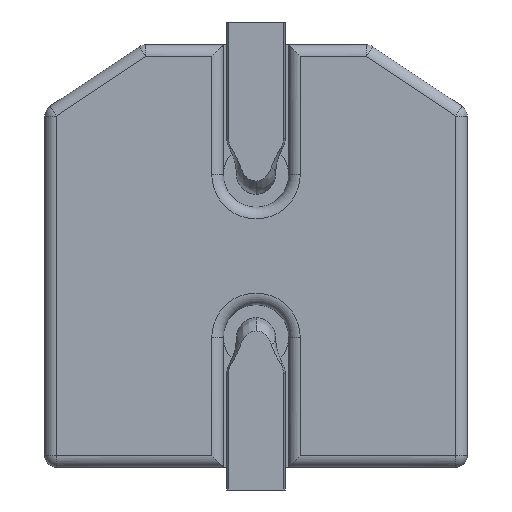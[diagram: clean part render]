
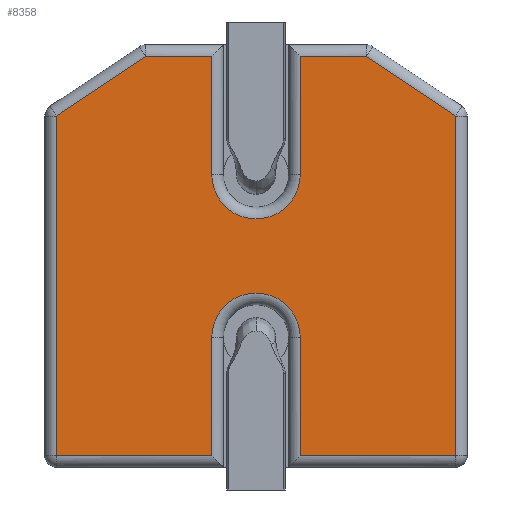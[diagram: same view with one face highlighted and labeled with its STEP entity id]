
A CAD part, left-side view. The second image highlights one B-rep face of the part: STEP entity #8358.
In plain terms, the highlighted planar face has unit normal (-1, 0, 0) as drawn and (0, -1, 0) by its records, which use the part's own axes.
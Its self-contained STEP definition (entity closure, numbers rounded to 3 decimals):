
#6933=DIRECTION('',(-0.832,0.,0.555));
#6934=VECTOR('',#6933,1.652);
#6935=CARTESIAN_POINT('',(3.07,0.,2.154));
#6936=LINE('',#6935,#6934);
#6937=DIRECTION('',(0.,0.,1.));
#6938=VECTOR('',#6937,5.224);
#6939=CARTESIAN_POINT('',(3.07,0.,-3.07));
#6940=LINE('',#6939,#6938);
#6941=DIRECTION('',(1.,0.,0.));
#6942=VECTOR('',#6941,2.39);
#6943=CARTESIAN_POINT('',(0.68,0.,-3.07));
#6944=LINE('',#6943,#6942);
#6945=DIRECTION('',(0.,0.,-1.));
#6946=VECTOR('',#6945,1.82);
#6947=CARTESIAN_POINT('',(0.68,0.,-1.25));
#6948=LINE('',#6947,#6946);
#6949=DIRECTION('',(0.,0.,1.));
#6950=VECTOR('',#6949,1.82);
#6951=CARTESIAN_POINT('',(-0.68,0.,-3.07));
#6952=LINE('',#6951,#6950);
#6953=DIRECTION('',(1.,0.,0.));
#6954=VECTOR('',#6953,2.39);
#6955=CARTESIAN_POINT('',(-3.07,0.,-3.07));
#6956=LINE('',#6955,#6954);
#6957=DIRECTION('',(0.,0.,-1.));
#6958=VECTOR('',#6957,5.224);
#6959=CARTESIAN_POINT('',(-3.07,0.,2.154));
#6960=LINE('',#6959,#6958);
#6961=DIRECTION('',(0.832,0.,0.555));
#6962=VECTOR('',#6961,1.652);
#6963=CARTESIAN_POINT('',(-3.07,0.,2.154));
#6964=LINE('',#6963,#6962);
#6965=DIRECTION('',(-1.,0.,0.));
#6966=VECTOR('',#6965,1.016);
#6967=CARTESIAN_POINT('',(-0.68,0.,3.07));
#6968=LINE('',#6967,#6966);
#6969=DIRECTION('',(0.,0.,1.));
#6970=VECTOR('',#6969,1.82);
#6971=CARTESIAN_POINT('',(-0.68,0.,1.25));
#6972=LINE('',#6971,#6970);
#6973=DIRECTION('',(0.,0.,-1.));
#6974=VECTOR('',#6973,1.82);
#6975=CARTESIAN_POINT('',(0.68,0.,3.07));
#6976=LINE('',#6975,#6974);
#6977=DIRECTION('',(-1.,0.,0.));
#6978=VECTOR('',#6977,1.016);
#6979=CARTESIAN_POINT('',(1.696,0.,3.07));
#6980=LINE('',#6979,#6978);
#7011=CARTESIAN_POINT('',(0.68,0.,3.07));
#7013=CARTESIAN_POINT('',(0.,0.,1.25));
#7014=DIRECTION('',(0.,1.,0.));
#7015=DIRECTION('',(1.,0.,0.));
#7016=AXIS2_PLACEMENT_3D('',#7013,#7014,#7015);
#7095=CARTESIAN_POINT('',(-0.68,0.,-3.07));
#7097=CARTESIAN_POINT('',(0.,0.,-1.25));
#7098=DIRECTION('',(0.,1.,0.));
#7099=DIRECTION('',(-1.,0.,0.));
#7100=AXIS2_PLACEMENT_3D('',#7097,#7098,#7099);
#7117=CARTESIAN_POINT('',(0.68,0.,-3.07));
#8145=CARTESIAN_POINT('',(-3.07,0.,-3.07));
#8147=VERTEX_POINT('',#8145);
#8156=VERTEX_POINT('',#7095);
#8157=CARTESIAN_POINT('',(3.07,0.,-3.07));
#8159=VERTEX_POINT('',#8157);
#8162=VERTEX_POINT('',#7117);
#8181=CARTESIAN_POINT('',(1.696,0.,3.07));
#8183=VERTEX_POINT('',#8181);
#8196=VERTEX_POINT('',#7011);
#8198=CARTESIAN_POINT('',(-1.696,0.,3.07));
#8200=VERTEX_POINT('',#8198);
#8241=CARTESIAN_POINT('',(3.07,0.,2.154));
#8242=VERTEX_POINT('',#8241);
#8243=CARTESIAN_POINT('',(-0.68,0.,3.07));
#8244=VERTEX_POINT('',#8243);
#8291=CARTESIAN_POINT('',(-0.68,0.,-1.25));
#8292=VERTEX_POINT('',#8291);
#8299=CARTESIAN_POINT('',(0.68,0.,-1.25));
#8300=VERTEX_POINT('',#8299);
#8303=CARTESIAN_POINT('',(-3.07,0.,2.154));
#8304=VERTEX_POINT('',#8303);
#8309=CARTESIAN_POINT('',(0.68,0.,1.25));
#8310=VERTEX_POINT('',#8309);
#8317=CARTESIAN_POINT('',(-0.68,0.,1.25));
#8318=VERTEX_POINT('',#8317);
#8323=CARTESIAN_POINT('',(0.,0.,0.));
#8324=DIRECTION('',(0.,1.,0.));
#8325=DIRECTION('',(0.,0.,1.));
#8326=AXIS2_PLACEMENT_3D('',#8323,#8324,#8325);
#8327=PLANE('',#8326);
#8329=ORIENTED_EDGE('',*,*,#8328,.F.);
#8331=ORIENTED_EDGE('',*,*,#8330,.F.);
#8333=ORIENTED_EDGE('',*,*,#8332,.F.);
#8335=ORIENTED_EDGE('',*,*,#8334,.F.);
#8337=ORIENTED_EDGE('',*,*,#8336,.F.);
#8339=ORIENTED_EDGE('',*,*,#8338,.F.);
#8341=ORIENTED_EDGE('',*,*,#8340,.F.);
#8343=ORIENTED_EDGE('',*,*,#8342,.F.);
#8345=ORIENTED_EDGE('',*,*,#8344,.T.);
#8347=ORIENTED_EDGE('',*,*,#8346,.F.);
#8349=ORIENTED_EDGE('',*,*,#8348,.F.);
#8351=ORIENTED_EDGE('',*,*,#8350,.F.);
#8353=ORIENTED_EDGE('',*,*,#8352,.F.);
#8355=ORIENTED_EDGE('',*,*,#8354,.F.);
#8356=EDGE_LOOP('',(#8329,#8331,#8333,#8335,#8337,#8339,#8341,#8343,#8345,#8347,
#8349,#8351,#8353,#8355));
#8357=FACE_OUTER_BOUND('',#8356,.F.);
#8358=ADVANCED_FACE('',(#8357),#8327,.F.);
#7017=CIRCLE('',#7016,0.68);
#7101=CIRCLE('',#7100,0.68);
#8328=EDGE_CURVE('',#8242,#8183,#6936,.T.);
#8330=EDGE_CURVE('',#8159,#8242,#6940,.T.);
#8332=EDGE_CURVE('',#8162,#8159,#6944,.T.);
#8334=EDGE_CURVE('',#8300,#8162,#6948,.T.);
#8336=EDGE_CURVE('',#8292,#8300,#7101,.T.);
#8338=EDGE_CURVE('',#8156,#8292,#6952,.T.);
#8340=EDGE_CURVE('',#8147,#8156,#6956,.T.);
#8342=EDGE_CURVE('',#8304,#8147,#6960,.T.);
#8344=EDGE_CURVE('',#8304,#8200,#6964,.T.);
#8346=EDGE_CURVE('',#8244,#8200,#6968,.T.);
#8348=EDGE_CURVE('',#8318,#8244,#6972,.T.);
#8350=EDGE_CURVE('',#8310,#8318,#7017,.T.);
#8352=EDGE_CURVE('',#8196,#8310,#6976,.T.);
#8354=EDGE_CURVE('',#8183,#8196,#6980,.T.);
